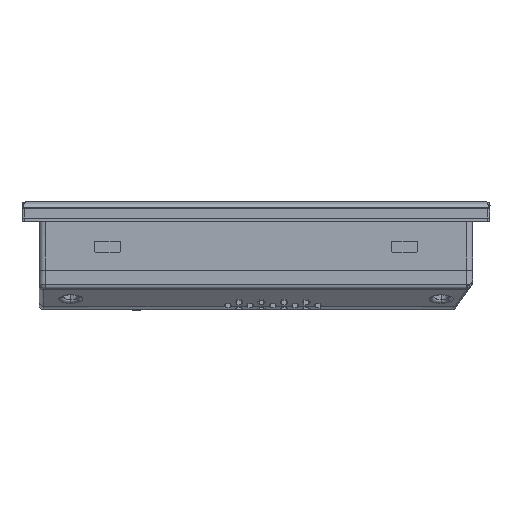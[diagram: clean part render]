
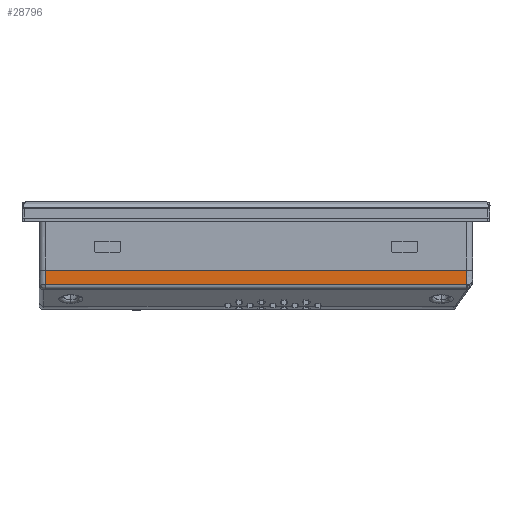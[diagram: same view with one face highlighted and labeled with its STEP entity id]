
A CAD part, front view. The second image highlights one B-rep face of the part: STEP entity #28796.
In plain terms, the highlighted planar face has unit normal (0, 1, 0).
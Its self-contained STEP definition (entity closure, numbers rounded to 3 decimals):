
#28796=ADVANCED_FACE('',(#32414),#117488,.T.);
#32414=FACE_OUTER_BOUND('',#36584,.T.);
#36584=EDGE_LOOP('',(#45871,#45872,#45873,#45874));
#45871=ORIENTED_EDGE('',*,*,#65206,.F.);
#45872=ORIENTED_EDGE('',*,*,#65208,.T.);
#45873=ORIENTED_EDGE('',*,*,#65209,.T.);
#45874=ORIENTED_EDGE('',*,*,#65207,.F.);
#65206=EDGE_CURVE('',#103875,#103876,#87963,.T.);
#65207=EDGE_CURVE('',#103876,#103877,#79390,.T.);
#65208=EDGE_CURVE('',#103875,#103878,#87964,.T.);
#65209=EDGE_CURVE('',#103878,#103877,#87965,.T.);
#79390=(
BOUNDED_CURVE()
B_SPLINE_CURVE(1,(#149242,#149243),.UNSPECIFIED.,.F.,.F.)
B_SPLINE_CURVE_WITH_KNOTS((2,2),(0.61,6.473),
 .UNSPECIFIED.)
CURVE()
GEOMETRIC_REPRESENTATION_ITEM()
RATIONAL_B_SPLINE_CURVE((1.,1.))
REPRESENTATION_ITEM('')
);
#87963=B_SPLINE_CURVE_WITH_KNOTS('',1,(#149240,#149241),.UNSPECIFIED.,.F.,
 .F.,(2,2),(-172.68,0.),.UNSPECIFIED.);
#87964=B_SPLINE_CURVE_WITH_KNOTS('',1,(#149244,#149245),.UNSPECIFIED.,.F.,
 .F.,(2,2),(0.,5.863),.UNSPECIFIED.);
#87965=B_SPLINE_CURVE_WITH_KNOTS('',1,(#149246,#149247),.UNSPECIFIED.,.F.,
 .F.,(2,2),(0.,172.68),.UNSPECIFIED.);
#103875=VERTEX_POINT('',#149236);
#103876=VERTEX_POINT('',#149237);
#103877=VERTEX_POINT('',#149238);
#103878=VERTEX_POINT('',#149239);
#117488=PLANE('',#120170);
#120170=AXIS2_PLACEMENT_3D('',#149235,#122835,$);
#122835=DIRECTION('',(0.,1.,0.));
#149235=CARTESIAN_POINT('',(-104.459,-129.1,-28.522));
#149236=CARTESIAN_POINT('',(86.34,-129.1,-21.222));
#149237=CARTESIAN_POINT('',(-86.34,-129.1,-21.222));
#149238=CARTESIAN_POINT('',(-86.34,-129.1,-27.085));
#149239=CARTESIAN_POINT('',(86.34,-129.1,-27.085));
#149240=CARTESIAN_POINT('',(86.34,-129.1,-21.222));
#149241=CARTESIAN_POINT('',(-86.34,-129.1,-21.222));
#149242=CARTESIAN_POINT('',(-86.34,-129.1,-21.222));
#149243=CARTESIAN_POINT('',(-86.34,-129.1,-27.085));
#149244=CARTESIAN_POINT('',(86.34,-129.1,-21.222));
#149245=CARTESIAN_POINT('',(86.34,-129.1,-27.085));
#149246=CARTESIAN_POINT('',(86.34,-129.1,-27.085));
#149247=CARTESIAN_POINT('',(-86.34,-129.1,-27.085));
